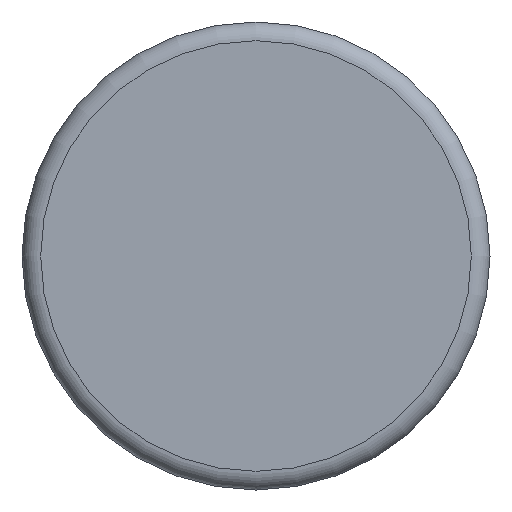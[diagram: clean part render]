
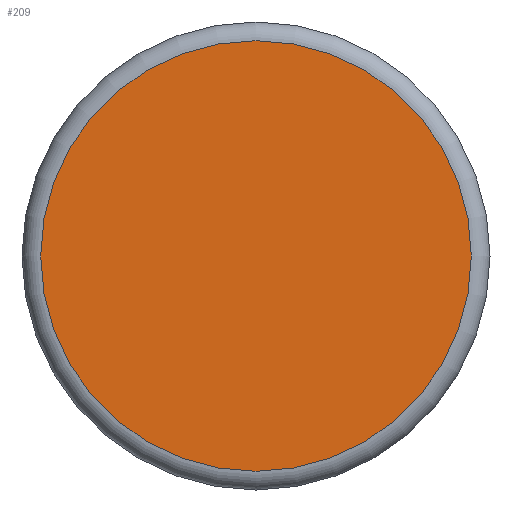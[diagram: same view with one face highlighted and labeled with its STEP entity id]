
A CAD part, front view. The second image highlights one B-rep face of the part: STEP entity #209.
In plain terms, the highlighted planar face has unit normal (0, -1, 0).
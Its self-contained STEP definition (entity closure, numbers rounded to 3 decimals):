
#209 = ADVANCED_FACE( '', ( #403 ), #404, .F. );
#403 = FACE_OUTER_BOUND( '', #585, .T. );
#404 = PLANE( '', #586 );
#585 = EDGE_LOOP( '', ( #903 ) );
#586 = AXIS2_PLACEMENT_3D( '', #904, #905, #906 );
#903 = ORIENTED_EDGE( '', *, *, #1074, .T. );
#904 = CARTESIAN_POINT( '', ( 11.5, 0., 0. ) );
#905 = DIRECTION( '', ( 0., 1., 0. ) );
#906 = DIRECTION( '', ( 0., 0., 1. ) );
#1074 = EDGE_CURVE( '', #1256, #1256, #1257, .T. );
#1256 = VERTEX_POINT( '', #1604 );
#1257 = CIRCLE( '', #1605, 11.5 );
#1604 = CARTESIAN_POINT( '', ( 0., 0., -11.5 ) );
#1605 = AXIS2_PLACEMENT_3D( '', #1864, #1865, #1866 );
#1864 = CARTESIAN_POINT( '', ( 0., 0., 0. ) );
#1865 = DIRECTION( '', ( 0., -1., 0. ) );
#1866 = DIRECTION( '', ( 0., 0., -1. ) );
